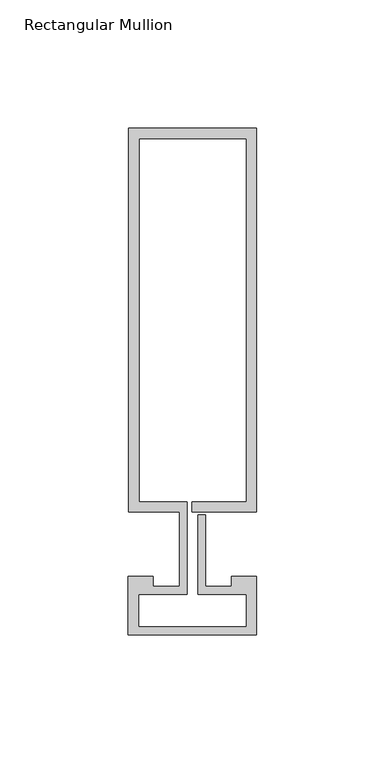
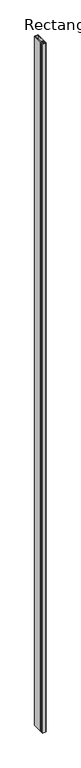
"""IFC4 building model written with IfcOpenShell, lengths in millimetres: member geometry, Rectangular Mullion : Reynaers_CW-50_Mullion-Transom_Vertical_149.8mm_Facecap-02C."""

from ifc_helpers import new_model, si_unit, frame, origin, place, context, project, spatial, polyline, outline, extrude, source, transform, mapped, element, save


def rectangular_mullion_cf849627(model_context):
    return source(origin(), model_context, "Body", "SweptSolid", [
        extrude(outline(polyline([(-24.8004059, 162.3), (25.1995941, 162.3), (25.1995941, 12.5), (0.0, 12.5), (0.0, 16.5), (21.1995941, 16.5), (21.1995941, 158.3), (-20.8004059, 158.3), (-20.8004059, 16.5), (-1.9004059, 16.5), (-1.9004059, -19.5), (-20.994845, -19.5), (-20.994845, -32.2191338), (21.1995941, -32.2191338), (21.1995941, -19.5), (2.2995941, -19.5), (2.2995941, 11.5), (5.2995941, 11.5), (5.2995941, -16.5), (15.2996495, -16.5), (15.2996495, -12.5), (25.1995941, -12.5), (25.1995941, -35.3), (-24.994845, -35.3), (-24.994845, -12.5), (-15.2996495, -12.5), (-15.2996495, -16.5), (-4.9004059, -16.5), (-4.9004059, 12.5), (-24.8004059, 12.5), (-24.8004059, 162.3)])), frame((0.0, 0.0, -10400.0), z_axis=(0.0, 0.0, 1.0), x_axis=(1.0, 0.0, 0.0)), (0.0, 0.0, 1.0), 10400.0),
    ])


if __name__ == "__main__":
    model = new_model("IFC4")
    model_context = context("Model", 3, world=origin())
    ifc_project = project(units=[si_unit("LENGTHUNIT", "METRE", prefix="MILLI")], contexts=[model_context])
    site = spatial("IfcSite", under=ifc_project)
    building = spatial("IfcBuilding", under=site)
    placement = place(None, origin())
    rectangular_mullion_shape = rectangular_mullion_cf849627(model_context)
    element("IfcMember", 1, ObjectType="Rectangular Mullion : Reynaers_CW-50_Mullion-Transom_Vertical_149.8mm_Facecap-02C", at=placement, inside=building, context=model_context, shape_type="MappedRepresentation", body=[
        mapped(rectangular_mullion_shape, transform((0.0, 0.0, 0.0), x_axis=(1.0, 0.0, 0.0), y_axis=(0.0, 1.0, 0.0), z_axis=(0.0, 0.0, 1.0))),
    ])
    save(model, "model.ifc")
